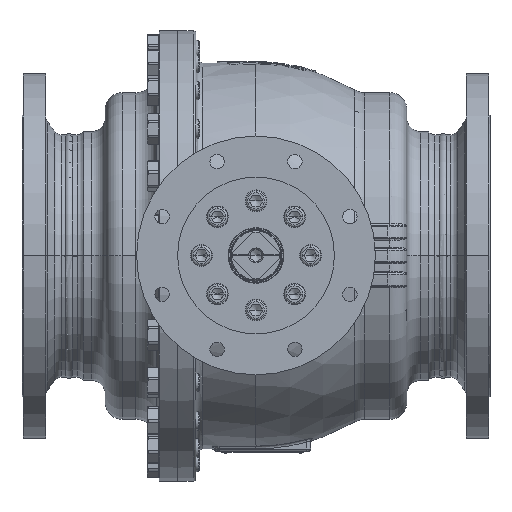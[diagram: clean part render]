
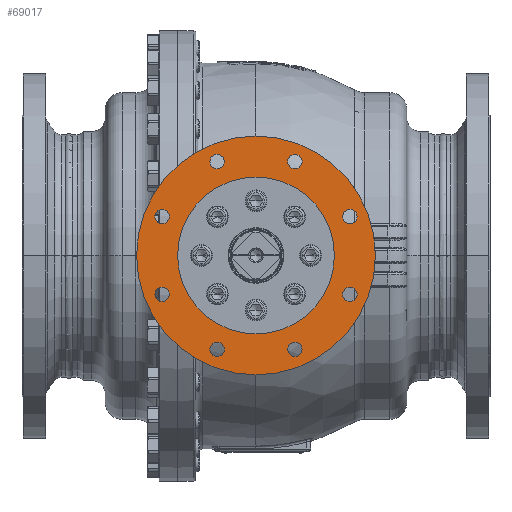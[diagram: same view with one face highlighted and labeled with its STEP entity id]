
A CAD part, top view. The second image highlights one B-rep face of the part: STEP entity #69017.
In plain terms, the highlighted planar face has unit normal (0, 0, 1).
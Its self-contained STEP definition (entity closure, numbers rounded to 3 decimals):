
#2970=CARTESIAN_POINT('',(0.,0.,440.));
#2971=DIRECTION('',(0.,0.,1.));
#2972=DIRECTION('',(1.,0.,0.));
#2973=AXIS2_PLACEMENT_3D('',#2970,#2971,#2972);
#2975=CARTESIAN_POINT('',(0.,0.,440.));
#2976=DIRECTION('',(0.,0.,-1.));
#2977=DIRECTION('',(1.,0.,0.));
#2978=AXIS2_PLACEMENT_3D('',#2975,#2976,#2977);
#2980=CARTESIAN_POINT('',(-57.02,137.658,440.));
#2981=DIRECTION('',(0.,0.,-1.));
#2982=DIRECTION('',(-1.,0.,0.));
#2983=AXIS2_PLACEMENT_3D('',#2980,#2981,#2982);
#2985=CARTESIAN_POINT('',(-57.02,137.658,440.));
#2986=DIRECTION('',(0.,0.,-1.));
#2987=DIRECTION('',(1.,0.,0.));
#2988=AXIS2_PLACEMENT_3D('',#2985,#2986,#2987);
#2990=CARTESIAN_POINT('',(57.02,137.658,440.));
#2991=DIRECTION('',(0.,0.,-1.));
#2992=DIRECTION('',(-0.707,0.707,0.));
#2993=AXIS2_PLACEMENT_3D('',#2990,#2991,#2992);
#2995=CARTESIAN_POINT('',(57.02,137.658,440.));
#2996=DIRECTION('',(0.,0.,-1.));
#2997=DIRECTION('',(0.707,-0.707,0.));
#2998=AXIS2_PLACEMENT_3D('',#2995,#2996,#2997);
#3000=CARTESIAN_POINT('',(137.658,57.02,440.));
#3001=DIRECTION('',(0.,0.,-1.));
#3002=DIRECTION('',(0.,1.,0.));
#3003=AXIS2_PLACEMENT_3D('',#3000,#3001,#3002);
#3005=CARTESIAN_POINT('',(137.658,57.02,440.));
#3006=DIRECTION('',(0.,0.,-1.));
#3007=DIRECTION('',(0.,-1.,0.));
#3008=AXIS2_PLACEMENT_3D('',#3005,#3006,#3007);
#3010=CARTESIAN_POINT('',(137.658,-57.02,440.));
#3011=DIRECTION('',(0.,0.,-1.));
#3012=DIRECTION('',(0.707,0.707,0.));
#3013=AXIS2_PLACEMENT_3D('',#3010,#3011,#3012);
#3015=CARTESIAN_POINT('',(137.658,-57.02,440.));
#3016=DIRECTION('',(0.,0.,-1.));
#3017=DIRECTION('',(-0.707,-0.707,0.));
#3018=AXIS2_PLACEMENT_3D('',#3015,#3016,#3017);
#3020=CARTESIAN_POINT('',(57.02,-137.658,440.));
#3021=DIRECTION('',(0.,0.,-1.));
#3022=DIRECTION('',(1.,0.,0.));
#3023=AXIS2_PLACEMENT_3D('',#3020,#3021,#3022);
#3025=CARTESIAN_POINT('',(57.02,-137.658,440.));
#3026=DIRECTION('',(0.,0.,-1.));
#3027=DIRECTION('',(-1.,0.,0.));
#3028=AXIS2_PLACEMENT_3D('',#3025,#3026,#3027);
#3030=CARTESIAN_POINT('',(-57.02,-137.658,440.));
#3031=DIRECTION('',(0.,0.,-1.));
#3032=DIRECTION('',(0.707,-0.707,0.));
#3033=AXIS2_PLACEMENT_3D('',#3030,#3031,#3032);
#3035=CARTESIAN_POINT('',(-57.02,-137.658,440.));
#3036=DIRECTION('',(0.,0.,-1.));
#3037=DIRECTION('',(-0.707,0.707,0.));
#3038=AXIS2_PLACEMENT_3D('',#3035,#3036,#3037);
#3040=CARTESIAN_POINT('',(-137.658,-57.02,440.));
#3041=DIRECTION('',(0.,0.,-1.));
#3042=DIRECTION('',(0.,-1.,0.));
#3043=AXIS2_PLACEMENT_3D('',#3040,#3041,#3042);
#3045=CARTESIAN_POINT('',(-137.658,-57.02,440.));
#3046=DIRECTION('',(0.,0.,-1.));
#3047=DIRECTION('',(0.,1.,0.));
#3048=AXIS2_PLACEMENT_3D('',#3045,#3046,#3047);
#3050=CARTESIAN_POINT('',(-137.658,57.02,440.));
#3051=DIRECTION('',(0.,0.,-1.));
#3052=DIRECTION('',(-0.707,-0.707,0.));
#3053=AXIS2_PLACEMENT_3D('',#3050,#3051,#3052);
#3055=CARTESIAN_POINT('',(-137.658,57.02,440.));
#3056=DIRECTION('',(0.,0.,-1.));
#3057=DIRECTION('',(0.707,0.707,0.));
#3058=AXIS2_PLACEMENT_3D('',#3055,#3056,#3057);
#3064=CARTESIAN_POINT('',(0.,0.,440.));
#3065=DIRECTION('',(0.,0.,-1.));
#3066=DIRECTION('',(1.,0.,0.));
#3067=AXIS2_PLACEMENT_3D('',#3064,#3065,#3066);
#3073=CARTESIAN_POINT('',(0.,0.,440.));
#3074=DIRECTION('',(0.,0.,1.));
#3075=DIRECTION('',(1.,0.,0.));
#3076=AXIS2_PLACEMENT_3D('',#3073,#3074,#3075);
#64926=CARTESIAN_POINT('',(115.,0.,440.));
#64928=VERTEX_POINT('',#64926);
#64930=CARTESIAN_POINT('',(-115.,0.,440.));
#64932=VERTEX_POINT('',#64930);
#65003=CARTESIAN_POINT('',(175.,0.,440.));
#65005=VERTEX_POINT('',#65003);
#65007=CARTESIAN_POINT('',(-175.,0.,440.));
#65009=VERTEX_POINT('',#65007);
#65082=CARTESIAN_POINT('',(-67.52,137.658,440.));
#65083=CARTESIAN_POINT('',(-46.52,137.658,440.));
#65084=VERTEX_POINT('',#65082);
#65085=VERTEX_POINT('',#65083);
#65090=CARTESIAN_POINT('',(49.595,145.083,440.));
#65091=CARTESIAN_POINT('',(64.444,130.233,440.));
#65092=VERTEX_POINT('',#65090);
#65093=VERTEX_POINT('',#65091);
#65098=CARTESIAN_POINT('',(137.658,67.52,440.));
#65099=CARTESIAN_POINT('',(137.658,46.52,440.));
#65100=VERTEX_POINT('',#65098);
#65101=VERTEX_POINT('',#65099);
#65106=CARTESIAN_POINT('',(145.083,-49.595,440.));
#65107=CARTESIAN_POINT('',(130.233,-64.444,440.));
#65108=VERTEX_POINT('',#65106);
#65109=VERTEX_POINT('',#65107);
#65114=CARTESIAN_POINT('',(67.52,-137.658,440.));
#65115=CARTESIAN_POINT('',(46.52,-137.658,440.));
#65116=VERTEX_POINT('',#65114);
#65117=VERTEX_POINT('',#65115);
#65122=CARTESIAN_POINT('',(-49.595,-145.083,440.));
#65123=CARTESIAN_POINT('',(-64.444,-130.233,440.));
#65124=VERTEX_POINT('',#65122);
#65125=VERTEX_POINT('',#65123);
#65130=CARTESIAN_POINT('',(-137.658,-67.52,440.));
#65131=CARTESIAN_POINT('',(-137.658,-46.52,440.));
#65132=VERTEX_POINT('',#65130);
#65133=VERTEX_POINT('',#65131);
#65138=CARTESIAN_POINT('',(-145.083,49.595,440.));
#65139=CARTESIAN_POINT('',(-130.233,64.444,440.));
#65140=VERTEX_POINT('',#65138);
#65141=VERTEX_POINT('',#65139);
#68954=CARTESIAN_POINT('',(0.,0.,440.));
#68955=DIRECTION('',(0.,0.,1.));
#68956=DIRECTION('',(1.,0.,0.));
#68957=AXIS2_PLACEMENT_3D('',#68954,#68955,#68956);
#68958=PLANE('',#68957);
#68959=ORIENTED_EDGE('',*,*,#68947,.F.);
#68960=ORIENTED_EDGE('',*,*,#68936,.T.);
#68961=EDGE_LOOP('',(#68959,#68960));
#68962=FACE_OUTER_BOUND('',#68961,.F.);
#68964=ORIENTED_EDGE('',*,*,#68963,.F.);
#68966=ORIENTED_EDGE('',*,*,#68965,.T.);
#68967=EDGE_LOOP('',(#68964,#68966));
#68968=FACE_BOUND('',#68967,.F.);
#68970=ORIENTED_EDGE('',*,*,#68969,.F.);
#68972=ORIENTED_EDGE('',*,*,#68971,.F.);
#68973=EDGE_LOOP('',(#68970,#68972));
#68974=FACE_BOUND('',#68973,.F.);
#68976=ORIENTED_EDGE('',*,*,#68975,.F.);
#68978=ORIENTED_EDGE('',*,*,#68977,.F.);
#68979=EDGE_LOOP('',(#68976,#68978));
#68980=FACE_BOUND('',#68979,.F.);
#68982=ORIENTED_EDGE('',*,*,#68981,.F.);
#68984=ORIENTED_EDGE('',*,*,#68983,.F.);
#68985=EDGE_LOOP('',(#68982,#68984));
#68986=FACE_BOUND('',#68985,.F.);
#68988=ORIENTED_EDGE('',*,*,#68987,.F.);
#68990=ORIENTED_EDGE('',*,*,#68989,.F.);
#68991=EDGE_LOOP('',(#68988,#68990));
#68992=FACE_BOUND('',#68991,.F.);
#68994=ORIENTED_EDGE('',*,*,#68993,.F.);
#68996=ORIENTED_EDGE('',*,*,#68995,.F.);
#68997=EDGE_LOOP('',(#68994,#68996));
#68998=FACE_BOUND('',#68997,.F.);
#69000=ORIENTED_EDGE('',*,*,#68999,.F.);
#69002=ORIENTED_EDGE('',*,*,#69001,.F.);
#69003=EDGE_LOOP('',(#69000,#69002));
#69004=FACE_BOUND('',#69003,.F.);
#69006=ORIENTED_EDGE('',*,*,#69005,.F.);
#69008=ORIENTED_EDGE('',*,*,#69007,.F.);
#69009=EDGE_LOOP('',(#69006,#69008));
#69010=FACE_BOUND('',#69009,.F.);
#69012=ORIENTED_EDGE('',*,*,#69011,.F.);
#69014=ORIENTED_EDGE('',*,*,#69013,.F.);
#69015=EDGE_LOOP('',(#69012,#69014));
#69016=FACE_BOUND('',#69015,.F.);
#69017=ADVANCED_FACE('',(#68962,#68968,#68974,#68980,#68986,#68992,#68998,
#69004,#69010,#69016),#68958,.T.);
#2974=CIRCLE('',#2973,175.);
#2979=CIRCLE('',#2978,175.);
#2984=CIRCLE('',#2983,10.5);
#2989=CIRCLE('',#2988,10.5);
#2994=CIRCLE('',#2993,10.5);
#2999=CIRCLE('',#2998,10.5);
#3004=CIRCLE('',#3003,10.5);
#3009=CIRCLE('',#3008,10.5);
#3014=CIRCLE('',#3013,10.5);
#3019=CIRCLE('',#3018,10.5);
#3024=CIRCLE('',#3023,10.5);
#3029=CIRCLE('',#3028,10.5);
#3034=CIRCLE('',#3033,10.5);
#3039=CIRCLE('',#3038,10.5);
#3044=CIRCLE('',#3043,10.5);
#3049=CIRCLE('',#3048,10.5);
#3054=CIRCLE('',#3053,10.5);
#3059=CIRCLE('',#3058,10.5);
#3068=CIRCLE('',#3067,115.);
#3077=CIRCLE('',#3076,115.);
#68936=EDGE_CURVE('',#65005,#65009,#2979,.T.);
#68947=EDGE_CURVE('',#65005,#65009,#2974,.T.);
#68963=EDGE_CURVE('',#64928,#64932,#3068,.T.);
#68965=EDGE_CURVE('',#64928,#64932,#3077,.T.);
#68969=EDGE_CURVE('',#65084,#65085,#2984,.T.);
#68971=EDGE_CURVE('',#65085,#65084,#2989,.T.);
#68975=EDGE_CURVE('',#65092,#65093,#2994,.T.);
#68977=EDGE_CURVE('',#65093,#65092,#2999,.T.);
#68981=EDGE_CURVE('',#65100,#65101,#3004,.T.);
#68983=EDGE_CURVE('',#65101,#65100,#3009,.T.);
#68987=EDGE_CURVE('',#65108,#65109,#3014,.T.);
#68989=EDGE_CURVE('',#65109,#65108,#3019,.T.);
#68993=EDGE_CURVE('',#65116,#65117,#3024,.T.);
#68995=EDGE_CURVE('',#65117,#65116,#3029,.T.);
#68999=EDGE_CURVE('',#65124,#65125,#3034,.T.);
#69001=EDGE_CURVE('',#65125,#65124,#3039,.T.);
#69005=EDGE_CURVE('',#65132,#65133,#3044,.T.);
#69007=EDGE_CURVE('',#65133,#65132,#3049,.T.);
#69011=EDGE_CURVE('',#65140,#65141,#3054,.T.);
#69013=EDGE_CURVE('',#65141,#65140,#3059,.T.);
